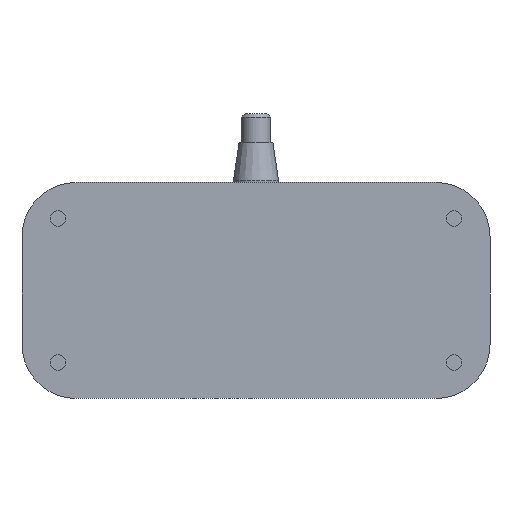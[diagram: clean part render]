
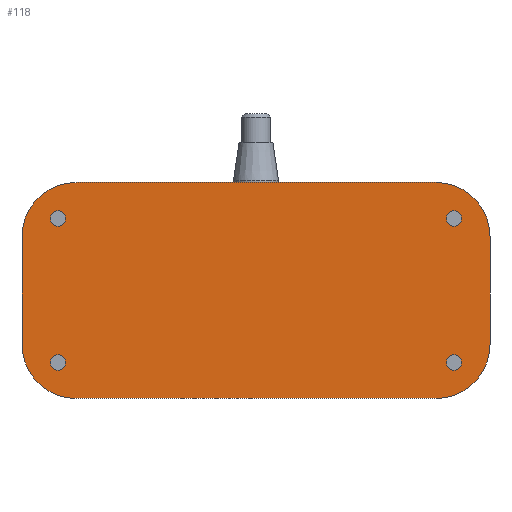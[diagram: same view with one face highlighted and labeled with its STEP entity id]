
A CAD part, front view. The second image highlights one B-rep face of the part: STEP entity #118.
In plain terms, the highlighted planar face has unit normal (0, -1, 0).
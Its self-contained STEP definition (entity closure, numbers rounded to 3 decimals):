
#4 = AXIS2_PLACEMENT_3D ( 'NONE', #1287, #195, #1465 ) ;
#18 = CARTESIAN_POINT ( 'NONE',  ( 110., 0., -40. ) ) ;
#38 = EDGE_CURVE ( 'NONE', #921, #1119, #1406, .T. ) ;
#51 = AXIS2_PLACEMENT_3D ( 'NONE', #1288, #1756, #401 ) ;
#97 = EDGE_CURVE ( 'NONE', #1837, #1871, #1354, .T. ) ;
#113 = VERTEX_POINT ( 'NONE', #2168 ) ;
#118 = ADVANCED_FACE ( 'NONE', ( #1804, #1757, #749, #333, #820 ), #2292, .F. ) ;
#120 = DIRECTION ( 'NONE',  ( 0., -1., 0. ) ) ;
#134 = CIRCLE ( 'NONE', #856, 30. ) ;
#160 = DIRECTION ( 'NONE',  ( -1., 0., 0. ) ) ;
#170 = CARTESIAN_POINT ( 'NONE',  ( -100., 0., -30. ) ) ;
#195 = DIRECTION ( 'NONE',  ( 0., -1., 0. ) ) ;
#204 = CIRCLE ( 'NONE', #1815, 4.25 ) ;
#246 = ORIENTED_EDGE ( 'NONE', *, *, #38, .F. ) ;
#258 = ORIENTED_EDGE ( 'NONE', *, *, #1118, .F. ) ;
#300 = CIRCLE ( 'NONE', #1524, 4.25 ) ;
#313 = CARTESIAN_POINT ( 'NONE',  ( -130., 0., 60. ) ) ;
#333 = FACE_BOUND ( 'NONE', #1278, .T. ) ;
#341 = EDGE_LOOP ( 'NONE', ( #1133, #1997, #1556, #559, #1159, #770, #2026, #2303 ) ) ;
#350 = DIRECTION ( 'NONE',  ( 0., -1., 0. ) ) ;
#365 = EDGE_CURVE ( 'NONE', #1166, #440, #2246, .T. ) ;
#395 = DIRECTION ( 'NONE',  ( 1., 0., 0. ) ) ;
#401 = DIRECTION ( 'NONE',  ( 1., 0., 0. ) ) ;
#440 = VERTEX_POINT ( 'NONE', #1614 ) ;
#476 = VERTEX_POINT ( 'NONE', #1702 ) ;
#486 = DIRECTION ( 'NONE',  ( 1., 0., 0. ) ) ;
#498 = DIRECTION ( 'NONE',  ( -1., 0., 0. ) ) ;
#510 = AXIS2_PLACEMENT_3D ( 'NONE', #2090, #120, #1067 ) ;
#512 = DIRECTION ( 'NONE',  ( 1., 0., 0. ) ) ;
#535 = VERTEX_POINT ( 'NONE', #1146 ) ;
#538 = AXIS2_PLACEMENT_3D ( 'NONE', #739, #1512, #498 ) ;
#556 = DIRECTION ( 'NONE',  ( 1., 0., 0. ) ) ;
#559 = ORIENTED_EDGE ( 'NONE', *, *, #713, .T. ) ;
#583 = CARTESIAN_POINT ( 'NONE',  ( 110., 0., 40. ) ) ;
#609 = CIRCLE ( 'NONE', #51, 4.25 ) ;
#648 = EDGE_CURVE ( 'NONE', #476, #2215, #2216, .T. ) ;
#678 = EDGE_CURVE ( 'NONE', #535, #1871, #698, .T. ) ;
#688 = DIRECTION ( 'NONE',  ( 1., 0., 0. ) ) ;
#693 = DIRECTION ( 'NONE',  ( 0., 1., 0. ) ) ;
#698 = LINE ( 'NONE', #2305, #816 ) ;
#701 = CIRCLE ( 'NONE', #1803, 4.25 ) ;
#702 = EDGE_CURVE ( 'NONE', #1711, #1837, #2052, .T. ) ;
#713 = EDGE_CURVE ( 'NONE', #535, #1589, #1642, .T. ) ;
#716 = DIRECTION ( 'NONE',  ( -1., 0., 0. ) ) ;
#739 = CARTESIAN_POINT ( 'NONE',  ( -100., 0., 30. ) ) ;
#744 = ORIENTED_EDGE ( 'NONE', *, *, #365, .F. ) ;
#749 = FACE_BOUND ( 'NONE', #927, .T. ) ;
#751 = CARTESIAN_POINT ( 'NONE',  ( 100., 0., -60. ) ) ;
#770 = ORIENTED_EDGE ( 'NONE', *, *, #1462, .T. ) ;
#779 = CARTESIAN_POINT ( 'NONE',  ( -114.25, 0., -40. ) ) ;
#793 = CARTESIAN_POINT ( 'NONE',  ( -110., 0., -40. ) ) ;
#816 = VECTOR ( 'NONE', #2127, 1000. ) ;
#818 = DIRECTION ( 'NONE',  ( 0., -1., 0. ) ) ;
#820 = FACE_OUTER_BOUND ( 'NONE', #341, .T. ) ;
#826 = AXIS2_PLACEMENT_3D ( 'NONE', #844, #350, #556 ) ;
#844 = CARTESIAN_POINT ( 'NONE',  ( -110., 0., 40. ) ) ;
#846 = VECTOR ( 'NONE', #395, 1000. ) ;
#855 = VERTEX_POINT ( 'NONE', #1343 ) ;
#856 = AXIS2_PLACEMENT_3D ( 'NONE', #170, #1796, #1533 ) ;
#867 = AXIS2_PLACEMENT_3D ( 'NONE', #1089, #1779, #716 ) ;
#876 = CIRCLE ( 'NONE', #510, 4.25 ) ;
#884 = EDGE_CURVE ( 'NONE', #113, #1329, #300, .T. ) ;
#921 = VERTEX_POINT ( 'NONE', #1197 ) ;
#927 = EDGE_LOOP ( 'NONE', ( #1061, #970 ) ) ;
#970 = ORIENTED_EDGE ( 'NONE', *, *, #884, .F. ) ;
#994 = CARTESIAN_POINT ( 'NONE',  ( -130., 0., -30. ) ) ;
#1035 = EDGE_CURVE ( 'NONE', #2255, #1070, #876, .T. ) ;
#1057 = CARTESIAN_POINT ( 'NONE',  ( 100., 0., 30. ) ) ;
#1058 = ORIENTED_EDGE ( 'NONE', *, *, #2042, .F. ) ;
#1061 = ORIENTED_EDGE ( 'NONE', *, *, #1398, .F. ) ;
#1067 = DIRECTION ( 'NONE',  ( 1., 0., 0. ) ) ;
#1070 = VERTEX_POINT ( 'NONE', #779 ) ;
#1089 = CARTESIAN_POINT ( 'NONE',  ( 100., 0., -30. ) ) ;
#1118 = EDGE_CURVE ( 'NONE', #1119, #921, #204, .T. ) ;
#1119 = VERTEX_POINT ( 'NONE', #1417 ) ;
#1133 = ORIENTED_EDGE ( 'NONE', *, *, #702, .T. ) ;
#1146 = CARTESIAN_POINT ( 'NONE',  ( 130., 0., 30. ) ) ;
#1159 = ORIENTED_EDGE ( 'NONE', *, *, #1305, .F. ) ;
#1166 = VERTEX_POINT ( 'NONE', #1414 ) ;
#1197 = CARTESIAN_POINT ( 'NONE',  ( 105.75, 0., -40. ) ) ;
#1214 = AXIS2_PLACEMENT_3D ( 'NONE', #1057, #2267, #1231 ) ;
#1231 = DIRECTION ( 'NONE',  ( -1., 0., 0. ) ) ;
#1278 = EDGE_LOOP ( 'NONE', ( #744, #1058 ) ) ;
#1282 = DIRECTION ( 'NONE',  ( 0., -1., 0. ) ) ;
#1287 = CARTESIAN_POINT ( 'NONE',  ( 110., 0., -40. ) ) ;
#1288 = CARTESIAN_POINT ( 'NONE',  ( 110., 0., 40. ) ) ;
#1292 = VECTOR ( 'NONE', #1573, 1000. ) ;
#1305 = EDGE_CURVE ( 'NONE', #855, #1589, #1422, .T. ) ;
#1306 = CARTESIAN_POINT ( 'NONE',  ( -100., 0., -60. ) ) ;
#1329 = VERTEX_POINT ( 'NONE', #1394 ) ;
#1343 = CARTESIAN_POINT ( 'NONE',  ( -100., 0., 60. ) ) ;
#1354 = CIRCLE ( 'NONE', #867, 30. ) ;
#1371 = CARTESIAN_POINT ( 'NONE',  ( -110., 0., 40. ) ) ;
#1394 = CARTESIAN_POINT ( 'NONE',  ( 114.25, 0., 40. ) ) ;
#1398 = EDGE_CURVE ( 'NONE', #1329, #113, #609, .T. ) ;
#1406 = CIRCLE ( 'NONE', #4, 4.25 ) ;
#1414 = CARTESIAN_POINT ( 'NONE',  ( -105.75, 0., 40. ) ) ;
#1417 = CARTESIAN_POINT ( 'NONE',  ( 114.25, 0., -40. ) ) ;
#1422 = LINE ( 'NONE', #1588, #846 ) ;
#1462 = EDGE_CURVE ( 'NONE', #855, #476, #2114, .T. ) ;
#1465 = DIRECTION ( 'NONE',  ( 1., 0., 0. ) ) ;
#1512 = DIRECTION ( 'NONE',  ( 0., -1., 0. ) ) ;
#1524 = AXIS2_PLACEMENT_3D ( 'NONE', #583, #818, #2004 ) ;
#1533 = DIRECTION ( 'NONE',  ( -1., 0., 0. ) ) ;
#1552 = EDGE_LOOP ( 'NONE', ( #258, #246 ) ) ;
#1556 = ORIENTED_EDGE ( 'NONE', *, *, #678, .F. ) ;
#1564 = DIRECTION ( 'NONE',  ( 0., -1., 0. ) ) ;
#1573 = DIRECTION ( 'NONE',  ( 0., 0., -1. ) ) ;
#1588 = CARTESIAN_POINT ( 'NONE',  ( -130., 0., 60. ) ) ;
#1589 = VERTEX_POINT ( 'NONE', #1905 ) ;
#1596 = DIRECTION ( 'NONE',  ( 1., 0., 0. ) ) ;
#1602 = VECTOR ( 'NONE', #512, 1000. ) ;
#1613 = ORIENTED_EDGE ( 'NONE', *, *, #1890, .F. ) ;
#1614 = CARTESIAN_POINT ( 'NONE',  ( -114.25, 0., 40. ) ) ;
#1631 = EDGE_LOOP ( 'NONE', ( #2113, #1613 ) ) ;
#1642 = CIRCLE ( 'NONE', #1214, 30. ) ;
#1695 = AXIS2_PLACEMENT_3D ( 'NONE', #1816, #693, #160 ) ;
#1702 = CARTESIAN_POINT ( 'NONE',  ( -130., 0., 30. ) ) ;
#1711 = VERTEX_POINT ( 'NONE', #1306 ) ;
#1715 = DIRECTION ( 'NONE',  ( 0., -1., 0. ) ) ;
#1716 = CARTESIAN_POINT ( 'NONE',  ( 130., 0., -30. ) ) ;
#1756 = DIRECTION ( 'NONE',  ( 0., -1., 0. ) ) ;
#1757 = FACE_BOUND ( 'NONE', #1552, .T. ) ;
#1765 = AXIS2_PLACEMENT_3D ( 'NONE', #1371, #1564, #486 ) ;
#1779 = DIRECTION ( 'NONE',  ( 0., -1., 0. ) ) ;
#1796 = DIRECTION ( 'NONE',  ( 0., -1., 0. ) ) ;
#1803 = AXIS2_PLACEMENT_3D ( 'NONE', #793, #1715, #1596 ) ;
#1804 = FACE_BOUND ( 'NONE', #1631, .T. ) ;
#1815 = AXIS2_PLACEMENT_3D ( 'NONE', #18, #1282, #688 ) ;
#1816 = CARTESIAN_POINT ( 'NONE',  ( -130., 0., 60. ) ) ;
#1837 = VERTEX_POINT ( 'NONE', #751 ) ;
#1871 = VERTEX_POINT ( 'NONE', #1716 ) ;
#1890 = EDGE_CURVE ( 'NONE', #1070, #2255, #701, .T. ) ;
#1905 = CARTESIAN_POINT ( 'NONE',  ( 100., 0., 60. ) ) ;
#1942 = CIRCLE ( 'NONE', #826, 4.25 ) ;
#1954 = CARTESIAN_POINT ( 'NONE',  ( -130., 0., -60. ) ) ;
#1997 = ORIENTED_EDGE ( 'NONE', *, *, #97, .T. ) ;
#2004 = DIRECTION ( 'NONE',  ( 1., 0., 0. ) ) ;
#2026 = ORIENTED_EDGE ( 'NONE', *, *, #648, .T. ) ;
#2042 = EDGE_CURVE ( 'NONE', #440, #1166, #1942, .T. ) ;
#2052 = LINE ( 'NONE', #1954, #1602 ) ;
#2090 = CARTESIAN_POINT ( 'NONE',  ( -110., 0., -40. ) ) ;
#2113 = ORIENTED_EDGE ( 'NONE', *, *, #1035, .F. ) ;
#2114 = CIRCLE ( 'NONE', #538, 30. ) ;
#2127 = DIRECTION ( 'NONE',  ( 0., 0., -1. ) ) ;
#2168 = CARTESIAN_POINT ( 'NONE',  ( 105.75, 0., 40. ) ) ;
#2215 = VERTEX_POINT ( 'NONE', #994 ) ;
#2216 = LINE ( 'NONE', #313, #1292 ) ;
#2222 = EDGE_CURVE ( 'NONE', #2215, #1711, #134, .T. ) ;
#2240 = CARTESIAN_POINT ( 'NONE',  ( -105.75, 0., -40. ) ) ;
#2246 = CIRCLE ( 'NONE', #1765, 4.25 ) ;
#2255 = VERTEX_POINT ( 'NONE', #2240 ) ;
#2267 = DIRECTION ( 'NONE',  ( 0., -1., 0. ) ) ;
#2292 = PLANE ( 'NONE',  #1695 ) ;
#2303 = ORIENTED_EDGE ( 'NONE', *, *, #2222, .T. ) ;
#2305 = CARTESIAN_POINT ( 'NONE',  ( 130., 0., 60. ) ) ;
